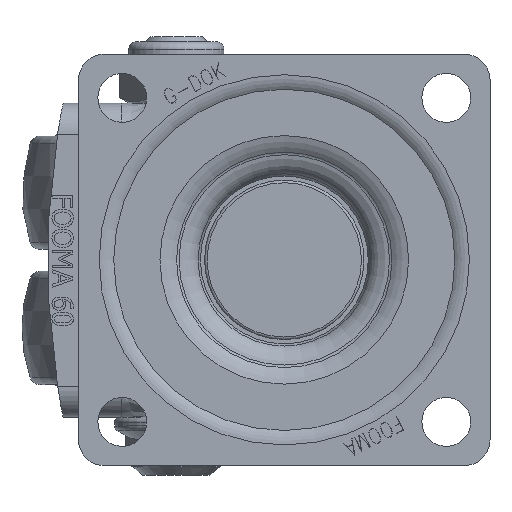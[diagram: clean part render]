
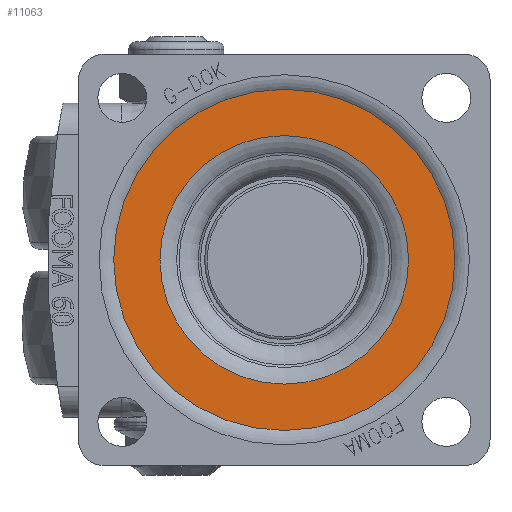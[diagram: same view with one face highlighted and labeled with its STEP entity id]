
A CAD part, top view. The second image highlights one B-rep face of the part: STEP entity #11063.
In plain terms, the highlighted planar face has unit normal (0, 0, 1).
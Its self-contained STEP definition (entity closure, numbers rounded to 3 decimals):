
#551=FACE_BOUND('',#1920,.T.);
#717=CIRCLE('',#11831,33.172);
#718=CIRCLE('',#11832,33.172);
#720=CIRCLE('',#11835,24.168);
#721=CIRCLE('',#11836,24.168);
#1267=FACE_OUTER_BOUND('',#1919,.T.);
#1919=EDGE_LOOP('',(#8931,#8932));
#1920=EDGE_LOOP('',(#8933,#8934));
#4959=VERTEX_POINT('',#17038);
#4960=VERTEX_POINT('',#17039);
#4961=VERTEX_POINT('',#17044);
#4962=VERTEX_POINT('',#17045);
#6355=EDGE_CURVE('',#4959,#4960,#717,.T.);
#6356=EDGE_CURVE('',#4960,#4959,#718,.T.);
#6358=EDGE_CURVE('',#4961,#4962,#720,.T.);
#6359=EDGE_CURVE('',#4962,#4961,#721,.T.);
#8931=ORIENTED_EDGE('',*,*,#6355,.T.);
#8932=ORIENTED_EDGE('',*,*,#6356,.T.);
#8933=ORIENTED_EDGE('',*,*,#6358,.T.);
#8934=ORIENTED_EDGE('',*,*,#6359,.T.);
#10634=PLANE('',#11834);
#11063=ADVANCED_FACE('',(#1267,#551),#10634,.F.);
#11831=AXIS2_PLACEMENT_3D('',#17040,#13953,#13954);
#11832=AXIS2_PLACEMENT_3D('',#17041,#13955,#13956);
#11834=AXIS2_PLACEMENT_3D('',#17043,#13959,#13960);
#11835=AXIS2_PLACEMENT_3D('',#17046,#13961,#13962);
#11836=AXIS2_PLACEMENT_3D('',#17047,#13963,#13964);
#13953=DIRECTION('center_axis',(0.,0.,
1.));
#13954=DIRECTION('ref_axis',(-1.,0.,0.));
#13955=DIRECTION('center_axis',(0.,0.,
1.));
#13956=DIRECTION('ref_axis',(-1.,0.,0.));
#13959=DIRECTION('center_axis',(0.,0.,
-1.));
#13960=DIRECTION('ref_axis',(1.,0.,0.));
#13961=DIRECTION('center_axis',(0.,0.,
-1.));
#13962=DIRECTION('ref_axis',(-1.,0.,0.));
#13963=DIRECTION('center_axis',(0.,0.,
-1.));
#13964=DIRECTION('ref_axis',(-1.,0.,0.));
#17038=CARTESIAN_POINT('',(33.172,0.,-1.555));
#17039=CARTESIAN_POINT('',(-33.172,0.,-1.555));
#17040=CARTESIAN_POINT('Origin',(0.,0.,
-1.555));
#17041=CARTESIAN_POINT('Origin',(0.,0.,
-1.555));
#17043=CARTESIAN_POINT('Origin',(24.168,0.,
-1.555));
#17044=CARTESIAN_POINT('',(24.168,0.,-1.555));
#17045=CARTESIAN_POINT('',(-24.168,0.,-1.555));
#17046=CARTESIAN_POINT('Origin',(0.,0.,
-1.555));
#17047=CARTESIAN_POINT('Origin',(0.,0.,
-1.555));
